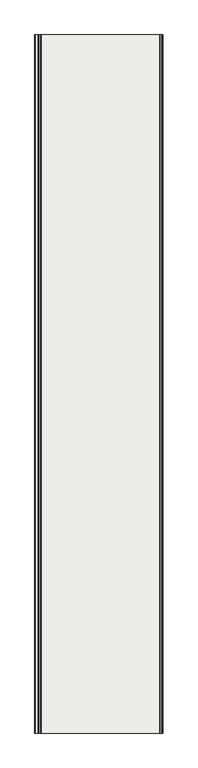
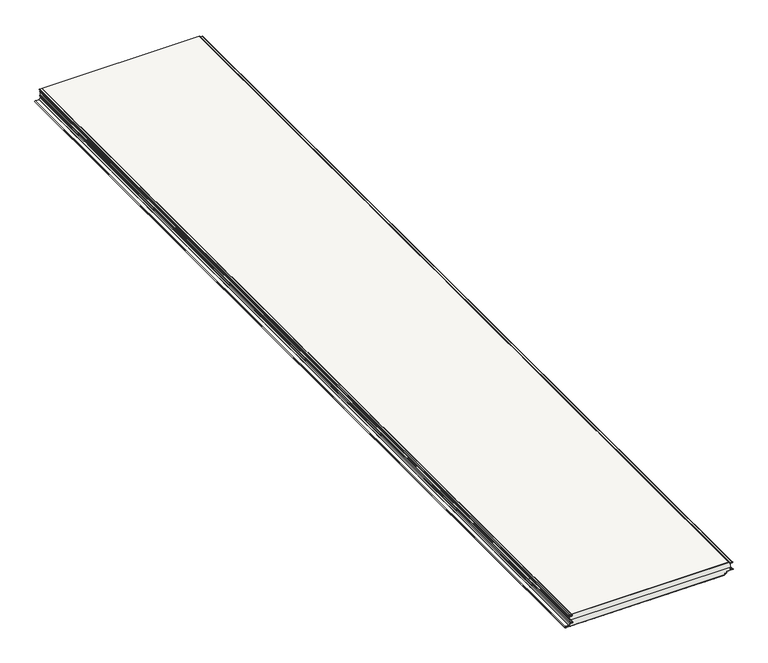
"""IFC4 building model written with IfcOpenShell, lengths in millimetres: covering geometry, Wall sandwich panel SPW-H CORE WOOL (single sheet) : -."""

from ifc_helpers import new_model, si_unit, point, frame, frame_2d, origin, place, context, project, spatial, polyline, circle_curve, trimmed, segment, composite_curve, outline, extrude, source, transform, mapped, element, save
from ifc_brep_helpers import plane_surface, cylinder_surface, revolved_surface, advanced_brep


def covering_1de69429(model_context):
    return source(origin(), model_context, "Body", "SolidModel", [
        extrude(outline(composite_curve([segment(polyline([(-80.4045269, -554.3070076), (-80.0, -542.4820076), (-80.4045269, -530.6570076), (-80.0, -518.8320076), (-80.4045269, -507.0070076), (-80.0, -495.1820076), (-80.4045269, -483.3570076), (-80.0, -471.5320076), (-80.4045269, -459.7070076), (-80.0, -447.8820076), (-80.4045269, -436.0570076), (-80.0, -424.2320076), (-80.4045269, -412.4070076), (-80.0, -400.5820076), (-80.4045269, -388.7570076), (-80.0, -376.9320076), (-80.4045269, -365.1070076), (-80.0, -353.2820076), (-80.4045269, -341.4570076), (-80.0, -329.6320076), (-80.4045269, -317.8070076), (-80.0, -305.9820076), (-80.4045269, -294.1570076), (-80.0, -282.3320076), (-80.4045269, -270.5070076), (-80.0, -258.6820076), (-80.4045269, -246.8570076), (-80.0, -235.0320076), (-80.4045269, -223.2070076), (-80.0, -211.3820076), (-80.4045269, -199.5570076), (-80.0, -187.7320076), (-80.4045269, -175.9070076), (-80.0, -164.0820076), (-80.4045269, -152.2570076), (-80.0, -140.4320076), (-80.4045269, -128.6070076), (-80.0, -116.7820076), (-80.4045269, -104.9570076), (-80.0, -93.1320076), (-80.0, -73.4477183)]), True, "CONTINUOUS"), segment(trimmed(circle_curve(frame_2d((-75.0, -73.4477183)), 5.0), [point((-80.0, -73.4477183))], [point((-75.0, -68.4477183))], False, "CARTESIAN"), True, "CONTINUOUS"), segment(polyline([(-75.0, -68.4477183), (-72.0092241, -68.4477183)]), True, "CONTINUOUS"), segment(trimmed(circle_curve(frame_2d((-72.0092241, -66.4315256)), 2.0161927), [point((-72.0092241, -68.4477183))], [point((-69.9930314, -66.4315256))], True, "CARTESIAN"), True, "CONTINUOUS"), segment(polyline([(-69.9930314, -66.4315256), (-69.9930314, -60.9141788)]), True, "CONTINUOUS"), segment(trimmed(circle_curve(frame_2d((-67.497194, -60.9141788)), 2.4958374), [point((-69.9930314, -60.9141788))], [point((-67.9318686, -58.4564843))], False, "CARTESIAN"), True, "CONTINUOUS"), segment(polyline([(-67.9318686, -58.4564843), (-61.6533464, -57.3460478)]), True, "CONTINUOUS"), segment(trimmed(circle_curve(frame_2d((-62.0004127, -55.3763918)), 2.0), [point((-61.6533464, -57.3460478))], [point((-60.0004127, -55.3763918))], True, "CARTESIAN"), True, "CONTINUOUS"), segment(polyline([(-60.0004127, -55.3763918), (-60.0004127, -18.8763918)]), True, "CONTINUOUS"), segment(trimmed(circle_curve(frame_2d((-57.0004127, -18.8763918)), 3.0), [point((-60.0004127, -18.8763918))], [point((-54.0045241, -18.7193839))], False, "CARTESIAN"), True, "CONTINUOUS"), segment(polyline([(-54.0045241, -18.7193839), (-53.2754556, -32.6308399)]), True, "CONTINUOUS"), segment(trimmed(circle_curve(frame_2d((-50.7788817, -32.5)), 2.5), [point((-53.2754556, -32.6308399))], [point((-50.7788817, -35.0))], True, "CARTESIAN"), True, "CONTINUOUS"), segment(polyline([(-50.7788817, -35.0), (-41.4988817, -35.0), (-41.4988817, -36.0), (-50.7788817, -36.0)]), True, "CONTINUOUS"), segment(trimmed(circle_curve(frame_2d((-50.7788817, -32.5)), 3.5), [point((-50.7788817, -36.0))], [point((-54.2740851, -32.6831758))], False, "CARTESIAN"), True, "CONTINUOUS"), segment(polyline([(-54.2740851, -32.6831758), (-55.0031536, -18.7717199)]), True, "CONTINUOUS"), segment(trimmed(circle_curve(frame_2d((-57.0004127, -18.8763918)), 2.0), [point((-55.0031536, -18.7717199))], [point((-59.0004127, -18.8763918))], True, "CARTESIAN"), True, "CONTINUOUS"), segment(polyline([(-59.0004127, -18.8763918), (-59.0004127, -55.3763918)]), True, "CONTINUOUS"), segment(trimmed(circle_curve(frame_2d((-62.0004127, -55.3763918)), 3.0), [point((-59.0004127, -55.3763918))], [point((-61.4794682, -58.330815))], False, "CARTESIAN"), True, "CONTINUOUS"), segment(polyline([(-61.4794682, -58.330815), (-67.7577087, -59.4412018)]), True, "CONTINUOUS"), segment(trimmed(circle_curve(frame_2d((-67.497194, -60.9141788)), 1.4958373), [point((-67.7577087, -59.4412018))], [point((-68.9930314, -60.9141788))], True, "CARTESIAN"), True, "CONTINUOUS"), segment(polyline([(-68.9930314, -60.9141788), (-68.9930314, -66.4315256)]), True, "CONTINUOUS"), segment(trimmed(circle_curve(frame_2d((-72.0092241, -66.4315256)), 3.0161927), [point((-68.9930314, -66.4315256))], [point((-72.0092241, -69.4477183))], False, "CARTESIAN"), True, "CONTINUOUS"), segment(polyline([(-72.0092241, -69.4477183), (-75.0, -69.4477183)]), True, "CONTINUOUS"), segment(trimmed(circle_curve(frame_2d((-75.0, -73.4477183)), 4.0), [point((-75.0, -69.4477183))], [point((-79.0, -73.4477183))], True, "CARTESIAN"), True, "CONTINUOUS"), segment(polyline([(-79.0, -73.4477183), (-79.0, -1085.0), (-80.0399345, -1085.0), (-80.4045269, -1074.3423522), (-80.0, -1062.5173522), (-80.4045269, -1050.6923522), (-80.0, -1038.8673522), (-80.4045269, -1027.0423522), (-80.0, -1015.2173522), (-80.4045269, -1003.3923522), (-80.0, -991.5673522), (-80.4045269, -979.7423522), (-80.0, -967.9173522), (-80.4045269, -956.0923522), (-80.0, -944.2673522), (-80.4045269, -932.4423522), (-80.0, -920.6173522), (-80.4045269, -908.7923522), (-80.0, -896.9673522), (-80.4045269, -885.1423522), (-80.0, -873.3173522), (-80.4045269, -861.4923522), (-80.0, -849.6673522), (-80.4045269, -837.8423522), (-80.0, -826.0173522), (-80.4045269, -814.1923522), (-80.0, -802.3673522), (-80.4045269, -790.5423522), (-80.0, -778.7173522), (-80.4045269, -766.8923522), (-80.0, -755.0673522), (-80.4045269, -743.2423522), (-80.0, -731.4173522), (-80.4045269, -719.5923522), (-80.0, -707.7673522), (-80.4045269, -695.9423522), (-80.0, -684.1173522), (-80.4045269, -672.2923522), (-80.0, -660.4673522), (-80.4045269, -648.6423522), (-80.0, -636.8173522), (-80.4045269, -624.9923522), (-80.0, -613.1673522), (-80.4045269, -601.3423522), (-80.0, -589.5173522), (-80.4045269, -577.6923522), (-80.0045269, -565.9996799), (-80.4045269, -554.3070076)]), True, "CONTINUOUS")], self_intersect=False)), frame((0.0, -6000.0, 0.0), z_axis=(0.0, 1.0, 0.0), x_axis=(0.0, 0.0, 1.0)), (0.0, 0.0, 1.0), 6000.0),
        extrude(outline(composite_curve([segment(polyline([(-79.0, -1085.0), (-80.0, -1085.0), (-80.0, -73.4477183)]), True, "CONTINUOUS"), segment(trimmed(circle_curve(frame_2d((-75.0, -73.4477183)), 5.0), [point((-80.0, -73.4477183))], [point((-75.0, -68.4477183))], False, "CARTESIAN"), True, "CONTINUOUS"), segment(polyline([(-75.0, -68.4477183), (-72.008232, -68.4477183)]), True, "CONTINUOUS"), segment(trimmed(circle_curve(frame_2d((-72.008232, -66.4315256)), 2.0161927), [point((-72.008232, -68.4477183))], [point((-69.9920393, -66.4315256))], True, "CARTESIAN"), True, "CONTINUOUS"), segment(polyline([(-69.9920393, -66.4315256), (-69.9920393, -60.9141788)]), True, "CONTINUOUS"), segment(trimmed(circle_curve(frame_2d((-67.4959919, -60.9141788)), 2.4960474), [point((-69.9920393, -60.9141788))], [point((-67.9326372, -58.4566204))], False, "CARTESIAN"), True, "CONTINUOUS"), segment(polyline([(-67.9326372, -58.4566204), (-61.6533464, -57.3460478)]), True, "CONTINUOUS"), segment(trimmed(circle_curve(frame_2d((-62.0004127, -55.3763918)), 2.0), [point((-61.6533464, -57.3460478))], [point((-60.0004127, -55.3763918))], True, "CARTESIAN"), True, "CONTINUOUS"), segment(polyline([(-60.0004127, -55.3763918), (-60.0004127, -18.8763918)]), True, "CONTINUOUS"), segment(trimmed(circle_curve(frame_2d((-57.0004127, -18.8763918)), 3.0), [point((-60.0004127, -18.8763918))], [point((-54.0045241, -18.7193839))], False, "CARTESIAN"), True, "CONTINUOUS"), segment(polyline([(-54.0045241, -18.7193839), (-53.2754556, -32.6308399)]), True, "CONTINUOUS"), segment(trimmed(circle_curve(frame_2d((-50.7788817, -32.5)), 2.5), [point((-53.2754556, -32.6308399))], [point((-50.7788817, -35.0))], True, "CARTESIAN"), True, "CONTINUOUS"), segment(polyline([(-50.7788817, -35.0), (-41.4988817, -35.0), (-41.4988817, -36.0), (-50.7788817, -36.0)]), True, "CONTINUOUS"), segment(trimmed(circle_curve(frame_2d((-50.7788817, -32.5)), 3.5), [point((-50.7788817, -36.0))], [point((-54.2740851, -32.6831758))], False, "CARTESIAN"), True, "CONTINUOUS"), segment(polyline([(-54.2740851, -32.6831758), (-55.0031536, -18.7717199)]), True, "CONTINUOUS"), segment(trimmed(circle_curve(frame_2d((-57.0004127, -18.8763918)), 2.0), [point((-55.0031536, -18.7717199))], [point((-59.0004127, -18.8763918))], True, "CARTESIAN"), True, "CONTINUOUS"), segment(polyline([(-59.0004127, -18.8763918), (-59.0004127, -55.3763918)]), True, "CONTINUOUS"), segment(trimmed(circle_curve(frame_2d((-62.0004127, -55.3763918)), 3.0), [point((-59.0004127, -55.3763918))], [point((-61.4794682, -58.330815))], False, "CARTESIAN"), True, "CONTINUOUS"), segment(polyline([(-61.4794682, -58.330815), (-67.7580406, -59.4412605)]), True, "CONTINUOUS"), segment(trimmed(circle_curve(frame_2d((-67.4959919, -60.9141788)), 1.4960474), [point((-67.7580406, -59.4412605))], [point((-68.9920393, -60.9141788))], True, "CARTESIAN"), True, "CONTINUOUS"), segment(polyline([(-68.9920393, -60.9141788), (-68.9920393, -66.4315256)]), True, "CONTINUOUS"), segment(trimmed(circle_curve(frame_2d((-72.008232, -66.4315256)), 3.0161927), [point((-68.9920393, -66.4315256))], [point((-72.008232, -69.4477183))], False, "CARTESIAN"), True, "CONTINUOUS"), segment(polyline([(-72.008232, -69.4477183), (-75.0, -69.4477183)]), True, "CONTINUOUS"), segment(trimmed(circle_curve(frame_2d((-75.0, -73.4477183)), 4.0), [point((-75.0, -69.4477183))], [point((-79.0, -73.4477183))], True, "CARTESIAN"), True, "CONTINUOUS"), segment(polyline([(-79.0, -73.4477183), (-79.0, -1085.0)]), True, "CONTINUOUS")], self_intersect=False)), frame((0.0, -6000.0, 0.0), z_axis=(0.0, 1.0, 0.0), x_axis=(0.0, 0.0, 1.0)), (0.0, 0.0, 1.0), 6000.0),
        extrude(outline(composite_curve([segment(polyline([(-15.1088808, -1083.0523342), (-14.5423642, -1072.2421915)]), True, "CONTINUOUS"), segment(trimmed(circle_curve(frame_2d((-9.549216, -1072.5038626)), 5.0), [point((-14.5423642, -1072.2421915))], [point((-4.5522622, -1072.3293564))], False, "CARTESIAN"), True, "CONTINUOUS"), segment(polyline([(-4.5522622, -1072.3293564), (-4.0495702, -1086.7238513)]), True, "CONTINUOUS"), segment(trimmed(circle_curve(frame_2d((-2.5266447, -1086.6173526)), 1.5266447), [point((-4.0495702, -1086.7238513))], [point((-1.0, -1086.6173526))], True, "CARTESIAN"), True, "CONTINUOUS"), segment(polyline([(-1.0, -1086.6173526), (-1.0, -1085.0), (0.0, -1085.0), (0.0, -1086.6173526)]), True, "CONTINUOUS"), segment(trimmed(circle_curve(frame_2d((-2.5266447, -1086.6173526)), 2.5266447), [point((0.0, -1086.6173526))], [point((-5.0484281, -1086.7740115))], False, "CARTESIAN"), True, "CONTINUOUS"), segment(polyline([(-5.0484281, -1086.7740115), (-5.551653, -1072.3642576)]), True, "CONTINUOUS"), segment(trimmed(circle_curve(frame_2d((-9.549216, -1072.5038626)), 4.0), [point((-5.551653, -1072.3642576))], [point((-13.5437346, -1072.2945257))], True, "CARTESIAN"), True, "CONTINUOUS"), segment(polyline([(-13.5437346, -1072.2945257), (-14.1102512, -1083.1046684)]), True, "CONTINUOUS"), segment(trimmed(circle_curve(frame_2d((-16.1075105, -1083.0)), 2.0), [point((-14.1102512, -1083.1046684))], [point((-16.1075105, -1085.0))], False, "CARTESIAN"), True, "CONTINUOUS"), segment(polyline([(-16.1075105, -1085.0), (-18.1075105, -1085.0), (-18.1075105, -1084.0), (-16.1075105, -1084.0)]), True, "CONTINUOUS"), segment(trimmed(circle_curve(frame_2d((-16.1075105, -1083.0)), 1.0), [point((-16.1075105, -1084.0))], [point((-15.1088808, -1083.0523342))], True, "CARTESIAN"), True, "CONTINUOUS")], self_intersect=False)), frame((0.0, -6000.0, 0.0), z_axis=(0.0, 1.0, 0.0), x_axis=(0.0, 0.0, 1.0)), (0.0, 0.0, 1.0), 6000.0),
        advanced_brep(
        [(-1080.5824878, -6000.0, -62.0150874), (-1069.3324879, -6000.0, -61.9992045), (-1069.0709825, -6000.0, -52.0060522), (-1083.2742211, -6000.0, -51.2619406), (-1084.0, -6000.0, -50.4971426), (-1084.0, -6000.0, -41.4971426), (-1085.0, -6000.0, -41.4971426), (-1085.0, -6000.0, -50.4971426), (-1083.3265396, -6000.0, -52.260571), (-1069.123301, -6000.0, -53.0046827), (-1069.3331636, -6000.0, -60.9992044), (-1080.6396582, -6000.0, -61.0151671), (-1082.7899391, -6000.0, -62.27871), (-1088.1496634, -6000.0, -69.933474), (-1090.1975249, -6000.0, -70.9995686), (-1113.4143745, -6000.0, -70.9999738), (-1113.414296, -6000.0, -80.0), (-1085.0, -6000.0, -80.0), (-1085.0, -6000.0, -79.0), (-1113.414296, -6000.0, -79.0), (-1113.4143571, -6000.0, -72.0), (-1090.1975075, -6000.0, -71.9995686), (-1087.3305014, -6000.0, -70.5070361), (-1081.9707771, -6000.0, -62.8522722), (-1080.5824878, 0.0, -62.0150874), (-1081.9707771, 0.0, -62.8522722), (-1087.3305014, 0.0, -70.5070361), (-1090.1975075, 0.0, -71.9995686), (-1113.4143571, 0.0, -71.9999738), (-1113.414296, 0.0, -79.0), (-1085.0, 0.0, -79.0), (-1085.0, 0.0, -80.0), (-1113.414296, 0.0, -80.0), (-1113.4143745, 0.0, -71.0), (-1090.1975249, 0.0, -70.9995686), (-1088.1496634, 0.0, -69.933474), (-1082.7899391, 0.0, -62.27871), (-1080.6396582, 0.0, -61.0151671), (-1069.3331636, 0.0, -60.9992044), (-1069.123301, 0.0, -53.0046827), (-1083.3265396, 0.0, -52.260571), (-1085.0, 0.0, -50.4971426), (-1085.0, 0.0, -41.4971426), (-1084.0, 0.0, -41.4971426), (-1084.0, 0.0, -50.4971426), (-1083.2742211, 0.0, -51.2619406), (-1069.0709825, 0.0, -52.0060522), (-1069.3324879, 0.0, -61.9992045)],
        [
            (0, 1),
            (1, 2, circle_curve(frame((-1069.3325751, -6000.0, -56.9992045), z_axis=(0.0, -1.0, 0.0), x_axis=(1.0, 0.0, 0.0)), 5.0)),
            (2, 3),
            (3, 4, circle_curve(frame((-1083.2341531, -6000.0, -50.4971426), z_axis=(0.0, 1.0, 0.0), x_axis=(1.0, 0.0, 0.0)), 0.7658469)),
            (4, 5),
            (5, 6),
            (6, 7),
            (7, 8, circle_curve(frame((-1083.2341531, -6000.0, -50.4971426), z_axis=(0.0, -1.0, 0.0), x_axis=(1.0, 0.0, 0.0)), 1.7658469)),
            (8, 9),
            (9, 10, circle_curve(frame((-1069.3325751, -6000.0, -56.9992045), z_axis=(0.0, 1.0, 0.0), x_axis=(1.0, 0.0, 0.0)), 4.0)),
            (10, 11),
            (11, 12, circle_curve(frame((-1080.3324529, -6000.0, -63.9993964), z_axis=(0.0, -1.0, 0.0), x_axis=(1.0, 0.0, 0.0)), 3.0)),
            (12, 13),
            (13, 14, circle_curve(frame((-1090.1975686, -6000.0, -68.4995686), z_axis=(0.0, 1.0, 0.0), x_axis=(1.0, 0.0, 0.0)), 2.5)),
            (14, 15),
            (15, 16, circle_curve(frame((-1113.414296, -6000.0, -75.5), z_axis=(0.0, -1.0, 0.0), x_axis=(1.0, 0.0, 0.0)), 4.5)),
            (16, 17),
            (17, 18),
            (18, 19),
            (19, 20, circle_curve(frame((-1113.414296, -6000.0, -75.5), z_axis=(0.0, 1.0, 0.0), x_axis=(1.0, 0.0, 0.0)), 3.5)),
            (20, 21),
            (21, 22, circle_curve(frame((-1090.1975686, -6000.0, -68.4995686), z_axis=(0.0, -1.0, 0.0), x_axis=(1.0, 0.0, 0.0)), 3.5)),
            (22, 23),
            (23, 0, circle_curve(frame((-1080.3324529, -6000.0, -63.9993964), z_axis=(0.0, 1.0, 0.0), x_axis=(1.0, 0.0, 0.0)), 2.0)),
            (24, 25, circle_curve(frame((-1080.3324529, 0.0, -63.9993964), z_axis=(0.0, -1.0, 0.0), x_axis=(1.0, 0.0, 0.0)), 2.0)),
            (25, 26),
            (26, 27, circle_curve(frame((-1090.1975686, 0.0, -68.4995686), z_axis=(0.0, 1.0, 0.0), x_axis=(1.0, 0.0, 0.0)), 3.5)),
            (27, 28),
            (28, 29, circle_curve(frame((-1113.414296, 0.0, -75.5), z_axis=(0.0, -1.0, 0.0), x_axis=(1.0, 0.0, 0.0)), 3.5)),
            (29, 30),
            (30, 31),
            (31, 32),
            (32, 33, circle_curve(frame((-1113.414296, 0.0, -75.5), z_axis=(0.0, 1.0, 0.0), x_axis=(1.0, 0.0, 0.0)), 4.5)),
            (33, 34),
            (34, 35, circle_curve(frame((-1090.1975686, 0.0, -68.4995686), z_axis=(0.0, -1.0, 0.0), x_axis=(1.0, 0.0, 0.0)), 2.5)),
            (35, 36),
            (36, 37, circle_curve(frame((-1080.3324529, 0.0, -63.9993964), z_axis=(0.0, 1.0, 0.0), x_axis=(1.0, 0.0, 0.0)), 3.0)),
            (37, 38),
            (38, 39, circle_curve(frame((-1069.3325751, 0.0, -56.9992045), z_axis=(0.0, -1.0, 0.0), x_axis=(1.0, 0.0, 0.0)), 4.0)),
            (39, 40),
            (40, 41, circle_curve(frame((-1083.2341531, 0.0, -50.4971426), z_axis=(0.0, 1.0, 0.0), x_axis=(1.0, 0.0, 0.0)), 1.7658469)),
            (41, 42),
            (42, 43),
            (43, 44),
            (44, 45, circle_curve(frame((-1083.2341531, 0.0, -50.4971426), z_axis=(0.0, -1.0, 0.0), x_axis=(1.0, 0.0, 0.0)), 0.7658469)),
            (45, 46),
            (46, 47, circle_curve(frame((-1069.3325751, 0.0, -56.9992045), z_axis=(0.0, 1.0, 0.0), x_axis=(1.0, 0.0, 0.0)), 5.0)),
            (47, 24),
            (0, 24),
            (47, 1),
            (46, 2),
            (45, 3),
            (44, 4),
            (43, 5),
            (42, 6),
            (41, 7),
            (40, 8),
            (39, 9),
            (38, 10),
            (37, 11),
            (36, 12),
            (35, 13),
            (34, 14),
            (33, 15),
            (32, 16),
            (31, 17),
            (30, 18),
            (29, 19),
            (28, 20),
            (27, 21),
            (26, 22),
            (25, 23),
        ],
        [
            plane_surface(frame((-1085.0, -6000.0, -80.0), z_axis=(0.0, -1.0, 0.0), x_axis=(0.0, 0.0, -1.0))),
            plane_surface(frame((-1085.0, 0.0, -80.0), z_axis=(0.0, 1.0, 0.0), x_axis=(0.0, 0.0, -1.0))),
            plane_surface(frame((-1080.5824878, -6000.0, -62.0150874), z_axis=(0.001411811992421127, 0.0, -0.9999990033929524), x_axis=(0.0, 1.0, 0.0))),
            cylinder_surface(frame((-1069.3325751, -6000.0, -56.9992045), z_axis=(0.0, -1.0, 0.0), x_axis=(1.0, 0.0, 0.0)), 5.0),
            plane_surface(frame((-1069.0709825, -6000.0, -52.0060522), z_axis=(0.05231852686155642, 0.0, 0.998630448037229), x_axis=(0.0, 1.0, 0.0))),
            revolved_surface(polyline([(-1082.4683062, 0.0, -50.4971426), (-1082.4683062, -6000.0, -50.4971426)]), (-1083.2341531, -6000.0, -50.4971426), (0.0, 1.0, 0.0)),
            plane_surface(frame((-1084.0, -6000.0, -50.4971426), z_axis=(1.0, 0.0, 0.0), x_axis=(0.0, 1.0, 0.0))),
            plane_surface(frame((-1084.0, -6000.0, -41.4971426), z_axis=(0.0, 0.0, 1.0), x_axis=(0.0, 1.0, 0.0))),
            plane_surface(frame((-1085.0, -6000.0, -41.4971426), z_axis=(-1.0, 0.0, 0.0), x_axis=(0.0, 1.0, 0.0))),
            cylinder_surface(frame((-1083.2341531, -6000.0, -50.4971426), z_axis=(0.0, -1.0, 0.0), x_axis=(1.0, 0.0, 0.0)), 1.7658469),
            plane_surface(frame((-1083.3265396, -6000.0, -52.260571), z_axis=(-0.05231852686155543, 0.0, -0.998630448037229), x_axis=(0.0, 1.0, 0.0))),
            revolved_surface(polyline([(-1065.3325751, 0.0, -56.9992045), (-1065.3325751, -6000.0, -56.9992045)]), (-1069.3325751, -6000.0, -56.9992045), (0.0, 1.0, 0.0)),
            plane_surface(frame((-1069.3331636, -6000.0, -60.9992044), z_axis=(-0.0014118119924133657, 0.0, 0.9999990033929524), x_axis=(0.0, 1.0, 0.0))),
            cylinder_surface(frame((-1080.3324529, -6000.0, -63.9993964), z_axis=(0.0, -1.0, 0.0), x_axis=(1.0, 0.0, 0.0)), 3.0),
            plane_surface(frame((-1082.7899391, -6000.0, -62.27871), z_axis=(-0.8191620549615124, 0.0, 0.5735621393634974), x_axis=(0.0, 1.0, 0.0))),
            revolved_surface(polyline([(-1087.6975686, 0.0, -68.4995686), (-1087.6975686, -6000.0, -68.4995686)]), (-1090.1975686, -6000.0, -68.4995686), (0.0, 1.0, 0.0)),
            plane_surface(frame((-1090.1975249, -6000.0, -70.9995686), z_axis=(-1.745329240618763e-05, 0.0, 0.9999999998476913), x_axis=(0.0, 1.0, 0.0))),
            cylinder_surface(frame((-1113.414296, -6000.0, -75.5), z_axis=(0.0, -1.0, 0.0), x_axis=(1.0, 0.0, 0.0)), 4.5),
            plane_surface(frame((-1113.414296, -6000.0, -80.0), z_axis=(0.0, 0.0, -1.0), x_axis=(0.0, 1.0, 0.0))),
            plane_surface(frame((-1085.0, -6000.0, -80.0), z_axis=(1.0, 0.0, 0.0), x_axis=(0.0, 1.0, 0.0))),
            plane_surface(frame((-1085.0, -6000.0, -79.0), z_axis=(0.0, 0.0, 1.0), x_axis=(0.0, 1.0, 0.0))),
            revolved_surface(polyline([(-1109.914296, 0.0, -75.5), (-1109.914296, -6000.0, -75.5)]), (-1113.414296, -6000.0, -75.5), (0.0, 1.0, 0.0)),
            plane_surface(frame((-1113.4143571, -6000.0, -71.9999738), z_axis=(1.745329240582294e-05, 0.0, -0.9999999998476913), x_axis=(0.0, 1.0, 0.0))),
            cylinder_surface(frame((-1090.1975686, -6000.0, -68.4995686), z_axis=(0.0, -1.0, 0.0), x_axis=(1.0, 0.0, 0.0)), 3.5),
            plane_surface(frame((-1087.3305014, -6000.0, -70.5070361), z_axis=(0.8191620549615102, 0.0, -0.5735621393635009), x_axis=(0.0, 1.0, 0.0))),
            revolved_surface(polyline([(-1078.3324529, 0.0, -63.9993964), (-1078.3324529, -6000.0, -63.9993964)]), (-1080.3324529, -6000.0, -63.9993964), (0.0, 1.0, 0.0)),
        ],
        [
            (0, [[1, 2, 3, 4, 5, 6, 7, 8, 9, 10, 11, 12, 13, 14, 15, 16, 17, 18, 19, 20, 21, 22, 23, 24]]),
            (1, [[25, 26, 27, 28, 29, 30, 31, 32, 33, 34, 35, 36, 37, 38, 39, 40, 41, 42, 43, 44, 45, 46, 47, 48]]),
            (2, [[-1, 49, -48, 50]]),
            (3, [[-2, -50, -47, 51]]),
            (4, [[-3, -51, -46, 52]]),
            (5, [[-4, -52, -45, 53]]),
            (6, [[-5, -53, -44, 54]]),
            (7, [[-6, -54, -43, 55]]),
            (8, [[-7, -55, -42, 56]]),
            (9, [[-8, -56, -41, 57]]),
            (10, [[-9, -57, -40, 58]]),
            (11, [[-10, -58, -39, 59]]),
            (12, [[-11, -59, -38, 60]]),
            (13, [[-12, -60, -37, 61]]),
            (14, [[-13, -61, -36, 62]]),
            (15, [[-14, -62, -35, 63]]),
            (16, [[-15, -63, -34, 64]]),
            (17, [[-16, -64, -33, 65]]),
            (18, [[-17, -65, -32, 66]]),
            (19, [[-18, -66, -31, 67]]),
            (20, [[-19, -67, -30, 68]]),
            (21, [[-20, -68, -29, 69]]),
            (22, [[-21, -69, -28, 70]]),
            (23, [[-22, -70, -27, 71]]),
            (24, [[-23, -71, -26, 72]]),
            (25, [[-24, -72, -25, -49]]),
        ],
    ),
        extrude(outline(composite_curve([segment(polyline([(-1.0, -1085.0), (-1.0, -42.1186621)]), True, "CONTINUOUS"), segment(trimmed(circle_curve(frame_2d((-2.5, -42.1186621)), 1.5), [point((-1.0, -42.1186621))], [point((-2.5, -40.6186621))], True, "CARTESIAN"), True, "CONTINUOUS"), segment(polyline([(-2.5, -40.6186621), (-4.3, -40.6186621)]), True, "CONTINUOUS"), segment(trimmed(circle_curve(frame_2d((-4.3, -38.1186621)), 2.5), [point((-4.3, -40.6186621))], [point((-6.7984771, -38.2059108))], False, "CARTESIAN"), True, "CONTINUOUS"), segment(polyline([(-6.7984771, -38.2059108), (-7.363951, -22.012857)]), True, "CONTINUOUS"), segment(trimmed(circle_curve(frame_2d((-9.3627326, -22.082656)), 2.0), [point((-7.363951, -22.012857))], [point((-11.3599917, -21.9779841))], True, "CARTESIAN"), True, "CONTINUOUS"), segment(polyline([(-11.3599917, -21.9779841), (-11.921027, -32.6831758)]), True, "CONTINUOUS"), segment(trimmed(circle_curve(frame_2d((-15.4162304, -32.5)), 3.5), [point((-11.921027, -32.6831758))], [point((-15.4162304, -36.0))], False, "CARTESIAN"), True, "CONTINUOUS"), segment(polyline([(-15.4162304, -36.0), (-18.1062304, -36.0), (-18.1062304, -35.0), (-15.4162304, -35.0)]), True, "CONTINUOUS"), segment(trimmed(circle_curve(frame_2d((-15.4162304, -32.5)), 2.5), [point((-15.4162304, -35.0))], [point((-12.9196566, -32.6308399))], True, "CARTESIAN"), True, "CONTINUOUS"), segment(polyline([(-12.9196566, -32.6308399), (-12.3586212, -21.9256482)]), True, "CONTINUOUS"), segment(trimmed(circle_curve(frame_2d((-9.3627326, -22.082656)), 3.0), [point((-12.3586212, -21.9256482))], [point((-6.3645601, -21.9779575))], False, "CARTESIAN"), True, "CONTINUOUS"), segment(polyline([(-6.3645601, -21.9779575), (-5.7990862, -38.1710114)]), True, "CONTINUOUS"), segment(trimmed(circle_curve(frame_2d((-4.3, -38.1186621)), 1.5), [point((-5.7990862, -38.1710114))], [point((-4.3, -39.6186621))], True, "CARTESIAN"), True, "CONTINUOUS"), segment(polyline([(-4.3, -39.6186621), (-2.5, -39.6186621)]), True, "CONTINUOUS"), segment(trimmed(circle_curve(frame_2d((-2.5, -42.1186621)), 2.5), [point((-2.5, -39.6186621))], [point((0.0, -42.1186621))], False, "CARTESIAN"), True, "CONTINUOUS"), segment(polyline([(0.0, -42.1186621), (0.0, -1085.0), (-1.0, -1085.0)]), True, "CONTINUOUS")], self_intersect=False)), frame((0.0, -6000.0, 0.0), z_axis=(0.0, 1.0, 0.0), x_axis=(0.0, 0.0, 1.0)), (0.0, 0.0, 1.0), 6000.0),
        advanced_brep(
        [(-1113.414296, -6000.0, -79.0), (-1085.0, -6000.0, -79.0), (-73.4477183, -6000.0, -79.0), (-69.4477183, -6000.0, -75.0), (-69.4477183, -6000.0, -72.0078193), (-66.4315256, -6000.0, -68.9916266), (-60.9141788, -6000.0, -68.9916266), (-59.4412605, -6000.0, -67.7576279), (-58.330815, -6000.0, -61.4790555), (-55.3763918, -6000.0, -59.0), (-18.8763918, -6000.0, -59.0), (-18.7717199, -6000.0, -55.0027409), (-32.6831758, -6000.0, -54.2736724), (-36.0, -6000.0, -50.778469), (-36.0, -6000.0, -40.0), (-1084.0, -6000.0, -40.0), (-1084.0, -6000.0, -50.4973345), (-1083.2742211, -6000.0, -51.2621326), (-1069.0709825, -6000.0, -52.0062442), (-1069.3324879, -6000.0, -61.9993964), (-1080.3324878, -6000.0, -61.9993964), (-1081.9707771, -6000.0, -62.8522722), (-1087.3305014, -6000.0, -70.5070361), (-1090.1975075, -6000.0, -71.9995686), (-1113.4143571, -6000.0, -71.9995686), (-1085.0, 0.0, -79.0), (-1113.414296, 0.0, -79.0), (-1113.4143571, 0.0, -72.0), (-1090.1975075, 0.0, -71.9995686), (-1087.3305014, 0.0, -70.5070361), (-1081.9707771, 0.0, -62.8522722), (-1080.3324878, 0.0, -61.9993964), (-1069.3324879, 0.0, -61.9993964), (-1069.0709825, 0.0, -52.0062442), (-1083.2742211, 0.0, -51.2621326), (-1084.0, 0.0, -50.4973345), (-1084.0, 0.0, -40.0), (-36.0, 0.0, -40.0), (-36.0, 0.0, -50.778469), (-32.6831758, 0.0, -54.2736724), (-18.7717199, 0.0, -55.0027409), (-18.8763918, 0.0, -59.0), (-55.3763918, 0.0, -59.0), (-58.330815, 0.0, -61.4790555), (-59.4412605, 0.0, -67.7576279), (-60.9141788, 0.0, -68.9916266), (-66.4315256, 0.0, -68.9916266), (-69.4477183, 0.0, -72.0078193), (-69.4477183, 0.0, -75.0), (-73.4477183, 0.0, -79.0)],
        [
            (0, 1),
            (1, 2),
            (2, 3, circle_curve(frame((-73.4477183, -6000.0, -75.0), z_axis=(0.0, -1.0, 0.0), x_axis=(-1.0, 0.0, 0.0)), 4.0)),
            (3, 4),
            (4, 5, circle_curve(frame((-66.4315256, -6000.0, -72.0078193), z_axis=(0.0, 1.0, 0.0), x_axis=(-1.0, 0.0, 0.0)), 3.0161927)),
            (5, 6),
            (6, 7, circle_curve(frame((-60.9141788, -6000.0, -67.4955792), z_axis=(0.0, -1.0, 0.0), x_axis=(-1.0, 0.0, 0.0)), 1.4960474)),
            (7, 8),
            (8, 9, circle_curve(frame((-55.3763918, -6000.0, -62.0), z_axis=(0.0, 1.0, 0.0), x_axis=(-1.0, 0.0, 0.0)), 3.0)),
            (9, 10),
            (10, 11, circle_curve(frame((-18.8763918, -6000.0, -57.0), z_axis=(0.0, -1.0, 0.0), x_axis=(-1.0, 0.0, 0.0)), 2.0)),
            (11, 12),
            (12, 13, circle_curve(frame((-32.5, -6000.0, -50.778469), z_axis=(0.0, 1.0, 0.0), x_axis=(-1.0, 0.0, 0.0)), 3.5)),
            (13, 14),
            (14, 15),
            (15, 16),
            (16, 17, circle_curve(frame((-1083.2341531, -6000.0, -50.4973345), z_axis=(0.0, -1.0, 0.0), x_axis=(-1.0, 0.0, 0.0)), 0.7658469)),
            (17, 18),
            (18, 19, circle_curve(frame((-1069.3325751, -6000.0, -56.9993964), z_axis=(0.0, 1.0, 0.0), x_axis=(-1.0, 0.0, 0.0)), 5.0)),
            (19, 20),
            (20, 21, circle_curve(frame((-1080.3324529, -6000.0, -63.9993964), z_axis=(0.0, -1.0, 0.0), x_axis=(-1.0, 0.0, 0.0)), 2.0)),
            (21, 22),
            (22, 23, circle_curve(frame((-1090.1975686, -6000.0, -68.4995686), z_axis=(0.0, 1.0, 0.0), x_axis=(-1.0, 0.0, 0.0)), 3.5)),
            (23, 24),
            (24, 0, circle_curve(frame((-1113.414296, -6000.0, -75.5), z_axis=(0.0, -1.0, 0.0), x_axis=(-1.0, 0.0, 0.0)), 3.5)),
            (25, 26),
            (26, 27, circle_curve(frame((-1113.414296, 0.0, -75.5), z_axis=(0.0, 1.0, 0.0), x_axis=(-1.0, 0.0, 0.0)), 3.5)),
            (27, 28),
            (28, 29, circle_curve(frame((-1090.1975686, 0.0, -68.4995686), z_axis=(0.0, -1.0, 0.0), x_axis=(-1.0, 0.0, 0.0)), 3.5)),
            (29, 30),
            (30, 31, circle_curve(frame((-1080.3324529, 0.0, -63.9993964), z_axis=(0.0, 1.0, 0.0), x_axis=(-1.0, 0.0, 0.0)), 2.0)),
            (31, 32),
            (32, 33, circle_curve(frame((-1069.3325751, 0.0, -56.9993964), z_axis=(0.0, -1.0, 0.0), x_axis=(-1.0, 0.0, 0.0)), 5.0)),
            (33, 34),
            (34, 35, circle_curve(frame((-1083.2341531, 0.0, -50.4973345), z_axis=(0.0, 1.0, 0.0), x_axis=(-1.0, 0.0, 0.0)), 0.7658469)),
            (35, 36),
            (36, 37),
            (37, 38),
            (38, 39, circle_curve(frame((-32.5, 0.0, -50.778469), z_axis=(0.0, -1.0, 0.0), x_axis=(-1.0, 0.0, 0.0)), 3.5)),
            (39, 40),
            (40, 41, circle_curve(frame((-18.8763918, 0.0, -57.0), z_axis=(0.0, 1.0, 0.0), x_axis=(-1.0, 0.0, 0.0)), 2.0)),
            (41, 42),
            (42, 43, circle_curve(frame((-55.3763918, 0.0, -62.0), z_axis=(0.0, -1.0, 0.0), x_axis=(-1.0, 0.0, 0.0)), 3.0)),
            (43, 44),
            (44, 45, circle_curve(frame((-60.9141788, 0.0, -67.4955792), z_axis=(0.0, 1.0, 0.0), x_axis=(-1.0, 0.0, 0.0)), 1.4960474)),
            (45, 46),
            (46, 47, circle_curve(frame((-66.4315256, 0.0, -72.0078193), z_axis=(0.0, -1.0, 0.0), x_axis=(-1.0, 0.0, 0.0)), 3.0161927)),
            (47, 48),
            (48, 49, circle_curve(frame((-73.4477183, 0.0, -75.0), z_axis=(0.0, 1.0, 0.0), x_axis=(-1.0, 0.0, 0.0)), 4.0)),
            (49, 25),
            (36, 15),
            (14, 37),
            (0, 26),
            (49, 2),
            (13, 38),
            (12, 39),
            (11, 40),
            (10, 41),
            (9, 42),
            (8, 43),
            (7, 44),
            (6, 45),
            (5, 46),
            (4, 47),
            (3, 48),
            (24, 27),
            (23, 28),
            (22, 29),
            (21, 30),
            (20, 31),
            (19, 32),
            (18, 33),
            (17, 34),
            (16, 35),
        ],
        [
            plane_surface(frame((-1145.0, -6000.0, -40.0), z_axis=(0.0, -1.0, 0.0), x_axis=(-1.0, 0.0, 0.0))),
            plane_surface(frame((-1145.0, 0.0, -40.0), z_axis=(0.0, 1.0, 0.0), x_axis=(1.0, 0.0, 0.0))),
            plane_surface(frame((25.0, -6000.0, -40.0), z_axis=(0.0, 0.0, 1.0), x_axis=(0.0, 1.0, 0.0))),
            plane_surface(frame((-1145.0, -6000.0, -79.0), z_axis=(0.0, 0.0, -1.0), x_axis=(0.0, 1.0, 0.0))),
            plane_surface(frame((-36.0, -6000.0, -15.4162304), z_axis=(1.0, 0.0, 0.0), x_axis=(0.0, 1.0, 0.0))),
            revolved_surface(polyline([(-36.0, -6000.0, -50.778469), (-36.0, 0.0, -50.778469)]), (-32.5, -6000.0, -50.778469), (0.0, -1.0, 0.0)),
            plane_surface(frame((-32.6831758, -6000.0, -54.2736724), z_axis=(0.052335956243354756, 0.0, 0.9986295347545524), x_axis=(0.0, 1.0, 0.0))),
            cylinder_surface(frame((-18.8763918, -6000.0, -57.0), z_axis=(0.0, 1.0, 0.0), x_axis=(-1.0, 0.0, 0.0)), 2.0),
            plane_surface(frame((-18.8763918, -6000.0, -59.0), z_axis=(0.0, 0.0, -1.0), x_axis=(0.0, 1.0, 0.0))),
            revolved_surface(polyline([(-58.3763918, -6000.0, -62.0), (-58.3763918, 0.0, -62.0)]), (-55.3763918, -6000.0, -62.0), (0.0, -1.0, 0.0)),
            plane_surface(frame((-58.330815, -6000.0, -61.4790555), z_axis=(0.9847174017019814, 0.0, -0.1741598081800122), x_axis=(0.0, 1.0, 0.0))),
            cylinder_surface(frame((-60.9141788, -6000.0, -67.4955792), z_axis=(0.0, 1.0, 0.0), x_axis=(-1.0, 0.0, 0.0)), 1.4960474),
            plane_surface(frame((-60.9141788, -6000.0, -68.9916266), z_axis=(0.0, 0.0, -1.0), x_axis=(0.0, 1.0, 0.0))),
            revolved_surface(polyline([(-69.4477183, -6000.0, -72.0078193), (-69.4477183, 0.0, -72.0078193)]), (-66.4315256, -6000.0, -72.0078193), (0.0, -1.0, 0.0)),
            plane_surface(frame((-69.4477183, -6000.0, -72.0078193), z_axis=(1.0, 0.0, 0.0), x_axis=(0.0, 1.0, 0.0))),
            cylinder_surface(frame((-73.4477183, -6000.0, -75.0), z_axis=(0.0, 1.0, 0.0), x_axis=(-1.0, 0.0, 0.0)), 4.0),
            cylinder_surface(frame((-1113.414296, -6000.0, -75.5), z_axis=(0.0, 1.0, 0.0), x_axis=(-1.0, 0.0, 0.0)), 3.5),
            plane_surface(frame((-1113.4143571, -6000.0, -71.9995686), z_axis=(0.0, 0.0, 1.0), x_axis=(0.0, 1.0, 0.0))),
            revolved_surface(polyline([(-1093.6975686, -6000.0, -68.4995686), (-1093.6975686, 0.0, -68.4995686)]), (-1090.1975686, -6000.0, -68.4995686), (0.0, -1.0, 0.0)),
            plane_surface(frame((-1087.3305014, -6000.0, -70.5070361), z_axis=(-0.8191620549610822, 0.0, 0.573562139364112), x_axis=(0.0, 1.0, 0.0))),
            cylinder_surface(frame((-1080.3324529, -6000.0, -63.9993964), z_axis=(0.0, 1.0, 0.0), x_axis=(-1.0, 0.0, 0.0)), 2.0),
            plane_surface(frame((-1080.3324878, -6000.0, -61.9993964), z_axis=(0.0, 0.0, 1.0), x_axis=(0.0, 1.0, 0.0))),
            revolved_surface(polyline([(-1074.3325751, -6000.0, -56.9993964), (-1074.3325751, 0.0, -56.9993964)]), (-1069.3325751, -6000.0, -56.9993964), (0.0, -1.0, 0.0)),
            plane_surface(frame((-1069.0709825, -6000.0, -52.0062442), z_axis=(-0.05231852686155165, 0.0, -0.9986304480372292), x_axis=(0.0, 1.0, 0.0))),
            cylinder_surface(frame((-1083.2341531, -6000.0, -50.4973345), z_axis=(0.0, 1.0, 0.0), x_axis=(-1.0, 0.0, 0.0)), 0.7658469),
            plane_surface(frame((-1084.0, -6000.0, -50.4973345), z_axis=(-1.0, 0.0, 0.0), x_axis=(0.0, 1.0, 0.0))),
        ],
        [
            (0, [[1, 2, 3, 4, 5, 6, 7, 8, 9, 10, 11, 12, 13, 14, 15, 16, 17, 18, 19, 20, 21, 22, 23, 24, 25]]),
            (1, [[26, 27, 28, 29, 30, 31, 32, 33, 34, 35, 36, 37, 38, 39, 40, 41, 42, 43, 44, 45, 46, 47, 48, 49, 50]]),
            (2, [[51, -15, 52, -37]]),
            (3, [[-1, 53, -26, -50, 54, -2]]),
            (4, [[55, -38, -52, -14]]),
            (5, [[-55, -13, 56, -39]]),
            (6, [[-56, -12, 57, -40]]),
            (7, [[-57, -11, 58, -41]]),
            (8, [[-58, -10, 59, -42]]),
            (9, [[-59, -9, 60, -43]]),
            (10, [[-60, -8, 61, -44]]),
            (11, [[-61, -7, 62, -45]]),
            (12, [[-62, -6, 63, -46]]),
            (13, [[-63, -5, 64, -47]]),
            (14, [[-64, -4, 65, -48]]),
            (15, [[-65, -3, -54, -49]]),
            (16, [[66, -27, -53, -25]]),
            (17, [[-66, -24, 67, -28]]),
            (18, [[-67, -23, 68, -29]]),
            (19, [[-68, -22, 69, -30]]),
            (20, [[-69, -21, 70, -31]]),
            (21, [[-70, -20, 71, -32]]),
            (22, [[-71, -19, 72, -33]]),
            (23, [[-72, -18, 73, -34]]),
            (24, [[-73, -17, 74, -35]]),
            (25, [[-74, -16, -51, -36]]),
        ],
    ),
        advanced_brep(
        [(-1085.0, -6000.0, -1.0), (-1086.6173526, -6000.0, -1.0), (-1086.7238513, -6000.0, -4.0495702), (-1072.3293564, -6000.0, -4.5522622), (-1072.2421915, -6000.0, -14.5423642), (-1083.0523342, -6000.0, -15.1088808), (-1084.0, -6000.0, -16.1075105), (-1084.0, -6000.0, -40.0), (-36.0, -6000.0, -40.0), (-36.0, -6000.0, -15.4162304), (-32.6831758, -6000.0, -11.921027), (-21.9779841, -6000.0, -11.3599917), (-22.012857, -6000.0, -7.363951), (-38.2059108, -6000.0, -6.7984771), (-40.6186621, -6000.0, -4.3), (-40.6186621, -6000.0, -2.5), (-42.1186621, -6000.0, -1.0), (-43.1368714, -6000.0, -1.0), (-1086.6173526, 0.0, -1.0), (-1085.0, 0.0, -1.0), (-43.1368714, 0.0, -1.0), (-42.1186621, 0.0, -1.0), (-40.6186621, 0.0, -2.5), (-40.6186621, 0.0, -4.3), (-38.2059108, 0.0, -6.7984771), (-22.012857, 0.0, -7.363951), (-21.9779841, 0.0, -11.3599917), (-32.6831758, 0.0, -11.921027), (-36.0, 0.0, -15.4162304), (-36.0, 0.0, -40.0), (-1084.0, 0.0, -40.0), (-1084.0, 0.0, -16.1075105), (-1083.0523342, 0.0, -15.1088808), (-1072.2421915, 0.0, -14.5423642), (-1072.3293564, 0.0, -4.5522622), (-1086.7238513, 0.0, -4.0495702)],
        [
            (0, 1),
            (1, 2, circle_curve(frame((-1086.6173526, -6000.0, -2.5266447), z_axis=(0.0, -1.0, 0.0), x_axis=(-1.0, 0.0, 0.0)), 1.5266447)),
            (2, 3),
            (3, 4, circle_curve(frame((-1072.5038626, -6000.0, -9.549216), z_axis=(0.0, 1.0, 0.0), x_axis=(-1.0, 0.0, 0.0)), 5.0)),
            (4, 5),
            (5, 6, circle_curve(frame((-1083.0, -6000.0, -16.1075105), z_axis=(0.0, -1.0, 0.0), x_axis=(-1.0, 0.0, 0.0)), 1.0)),
            (6, 7),
            (7, 8),
            (8, 9),
            (9, 10, circle_curve(frame((-32.5, -6000.0, -15.4162304), z_axis=(0.0, 1.0, 0.0), x_axis=(-1.0, 0.0, 0.0)), 3.5)),
            (10, 11),
            (11, 12, circle_curve(frame((-22.082656, -6000.0, -9.3627326), z_axis=(0.0, -1.0, 0.0), x_axis=(-1.0, 0.0, 0.0)), 2.0)),
            (12, 13),
            (13, 14, circle_curve(frame((-38.1186621, -6000.0, -4.3), z_axis=(0.0, 1.0, 0.0), x_axis=(-1.0, 0.0, 0.0)), 2.5)),
            (14, 15),
            (15, 16, circle_curve(frame((-42.1186621, -6000.0, -2.5), z_axis=(0.0, -1.0, 0.0), x_axis=(-1.0, 0.0, 0.0)), 1.5)),
            (16, 17),
            (17, 0),
            (18, 19),
            (19, 20),
            (20, 21),
            (21, 22, circle_curve(frame((-42.1186621, 0.0, -2.5), z_axis=(0.0, 1.0, 0.0), x_axis=(-1.0, 0.0, 0.0)), 1.5)),
            (22, 23),
            (23, 24, circle_curve(frame((-38.1186621, 0.0, -4.3), z_axis=(0.0, -1.0, 0.0), x_axis=(-1.0, 0.0, 0.0)), 2.5)),
            (24, 25),
            (25, 26, circle_curve(frame((-22.082656, 0.0, -9.3627326), z_axis=(0.0, 1.0, 0.0), x_axis=(-1.0, 0.0, 0.0)), 2.0)),
            (26, 27),
            (27, 28, circle_curve(frame((-32.5, 0.0, -15.4162304), z_axis=(0.0, -1.0, 0.0), x_axis=(-1.0, 0.0, 0.0)), 3.5)),
            (28, 29),
            (29, 30),
            (30, 31),
            (31, 32, circle_curve(frame((-1083.0, 0.0, -16.1075105), z_axis=(0.0, 1.0, 0.0), x_axis=(-1.0, 0.0, 0.0)), 1.0)),
            (32, 33),
            (33, 34, circle_curve(frame((-1072.5038626, 0.0, -9.549216), z_axis=(0.0, -1.0, 0.0), x_axis=(-1.0, 0.0, 0.0)), 5.0)),
            (34, 35),
            (35, 18, circle_curve(frame((-1086.6173526, 0.0, -2.5266447), z_axis=(0.0, 1.0, 0.0), x_axis=(-1.0, 0.0, 0.0)), 1.5266447)),
            (16, 21),
            (18, 1),
            (7, 30),
            (29, 8),
            (15, 22),
            (14, 23),
            (13, 24),
            (12, 25),
            (11, 26),
            (10, 27),
            (9, 28),
            (6, 31),
            (5, 32),
            (4, 33),
            (3, 34),
            (2, 35),
        ],
        [
            plane_surface(frame((-1145.0, -6000.0, -1.0), z_axis=(0.0, -1.0, 0.0), x_axis=(-1.0, 0.0, 0.0))),
            plane_surface(frame((-1145.0, 0.0, -1.0), z_axis=(0.0, 1.0, 0.0), x_axis=(1.0, 0.0, 0.0))),
            plane_surface(frame((25.0, -6000.0, -1.0), z_axis=(0.0, 0.0, 1.0), x_axis=(0.0, 1.0, 0.0))),
            plane_surface(frame((-1145.0, -6000.0, -40.0), z_axis=(0.0, 0.0, -1.0), x_axis=(0.0, 1.0, 0.0))),
            cylinder_surface(frame((-42.1186621, -6000.0, -2.5), z_axis=(0.0, 1.0, 0.0), x_axis=(-1.0, 0.0, 0.0)), 1.5),
            plane_surface(frame((-40.6186621, -6000.0, -2.5), z_axis=(1.0, 0.0, 0.0), x_axis=(0.0, 1.0, 0.0))),
            revolved_surface(polyline([(-40.6186621, -6000.0, -4.3), (-40.6186621, 0.0, -4.3)]), (-38.1186621, -6000.0, -4.3), (0.0, -1.0, 0.0)),
            plane_surface(frame((-38.2059108, -6000.0, -6.7984771), z_axis=(0.03489949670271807, 0.0, 0.9993908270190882), x_axis=(0.0, 1.0, 0.0))),
            cylinder_surface(frame((-22.082656, -6000.0, -9.3627326), z_axis=(0.0, 1.0, 0.0), x_axis=(-1.0, 0.0, 0.0)), 2.0),
            plane_surface(frame((-21.9779841, -6000.0, -11.3599917), z_axis=(0.05233595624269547, 0.0, -0.998629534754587), x_axis=(0.0, 1.0, 0.0))),
            revolved_surface(polyline([(-36.0, -6000.0, -15.4162304), (-36.0, 0.0, -15.4162304)]), (-32.5, -6000.0, -15.4162304), (0.0, -1.0, 0.0)),
            plane_surface(frame((-36.0, -6000.0, -15.4162304), z_axis=(1.0, 0.0, 0.0), x_axis=(0.0, 1.0, 0.0))),
            plane_surface(frame((-1084.0, -6000.0, -50.4973345), z_axis=(-1.0, 0.0, 0.0), x_axis=(0.0, 1.0, 0.0))),
            cylinder_surface(frame((-1083.0, -6000.0, -16.1075105), z_axis=(0.0, 1.0, 0.0), x_axis=(-1.0, 0.0, 0.0)), 1.0),
            plane_surface(frame((-1083.0523342, -6000.0, -15.1088808), z_axis=(-0.05233421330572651, 0.0, 0.9986296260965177), x_axis=(0.0, 1.0, 0.0))),
            revolved_surface(polyline([(-1077.5038626, -6000.0, -9.549216), (-1077.5038626, 0.0, -9.549216)]), (-1072.5038626, -6000.0, -9.549216), (0.0, -1.0, 0.0)),
            plane_surface(frame((-1072.3293564, -6000.0, -4.5522622), z_axis=(-0.034901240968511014, 0.0, -0.9993907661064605), x_axis=(0.0, 1.0, 0.0))),
            cylinder_surface(frame((-1086.6173526, -6000.0, -2.5266447), z_axis=(0.0, 1.0, 0.0), x_axis=(-1.0, 0.0, 0.0)), 1.5266447),
        ],
        [
            (0, [[1, 2, 3, 4, 5, 6, 7, 8, 9, 10, 11, 12, 13, 14, 15, 16, 17, 18]]),
            (1, [[19, 20, 21, 22, 23, 24, 25, 26, 27, 28, 29, 30, 31, 32, 33, 34, 35, 36]]),
            (2, [[-1, -18, -17, 37, -21, -20, -19, 38]]),
            (3, [[39, -30, 40, -8]]),
            (4, [[41, -22, -37, -16]]),
            (5, [[-41, -15, 42, -23]]),
            (6, [[-42, -14, 43, -24]]),
            (7, [[-43, -13, 44, -25]]),
            (8, [[-44, -12, 45, -26]]),
            (9, [[-45, -11, 46, -27]]),
            (10, [[-46, -10, 47, -28]]),
            (11, [[-47, -9, -40, -29]]),
            (12, [[48, -31, -39, -7]]),
            (13, [[-48, -6, 49, -32]]),
            (14, [[-49, -5, 50, -33]]),
            (15, [[-50, -4, 51, -34]]),
            (16, [[-51, -3, 52, -35]]),
            (17, [[-52, -2, -38, -36]]),
        ],
    ),
    ])


if __name__ == "__main__":
    model = new_model("IFC4")
    model_context = context("Model", 3, world=origin())
    ifc_project = project(units=[si_unit("LENGTHUNIT", "METRE", prefix="MILLI")], contexts=[model_context])
    site = spatial("IfcSite", under=ifc_project)
    building = spatial("IfcBuilding", under=site)
    placement = place(None, origin())
    covering_shape = covering_1de69429(model_context)
    element("IfcCovering", 1, ObjectType="Wall sandwich panel SPW-H CORE WOOL (single sheet) : -", at=placement, inside=building, context=model_context, shape_type="MappedRepresentation", body=[
        mapped(covering_shape, transform((0.0, 0.0, 0.0), x_axis=(1.0, 0.0, 0.0), y_axis=(0.0, 1.0, 0.0), z_axis=(0.0, 0.0, 1.0))),
    ])
    save(model, "model.ifc")
